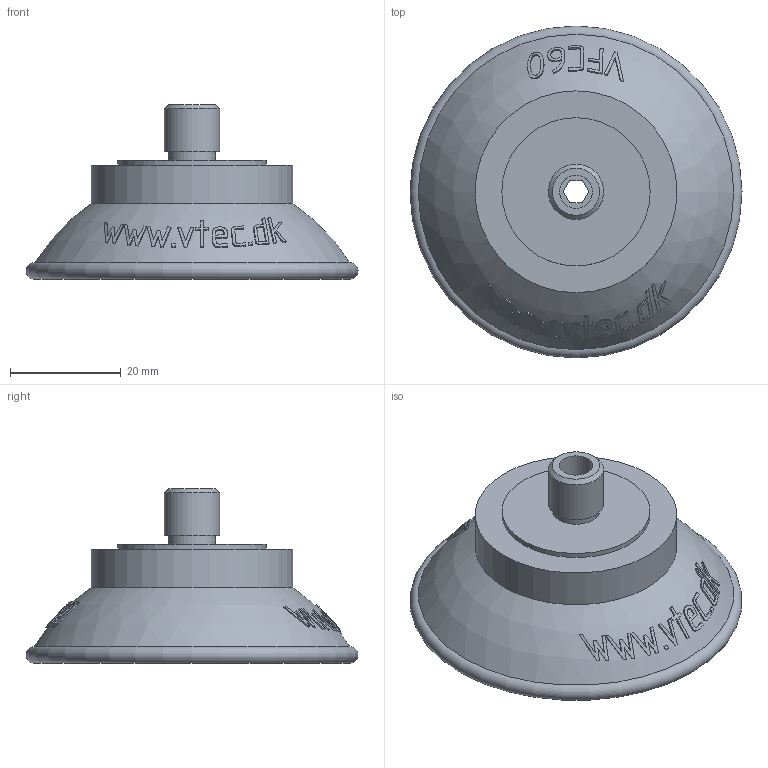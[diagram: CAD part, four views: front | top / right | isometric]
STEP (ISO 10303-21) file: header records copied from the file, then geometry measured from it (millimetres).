
FILE_DESCRIPTION( ( 'STEP AP203' ), '1' );
FILE_NAME( 'C:/Documents and Settings/Owner/官帕 拳搁/3D/Vacuum Pad/VFC series/VFC60X1-M10M.stp', '2006-04-25T05:10:25', ( ' ' ), ( ' ' ), 'XStep 1.0', ' ', ' ' );
FILE_SCHEMA( ( 'CONFIG_CONTROL_DESIGN) ( )' ) );
Length unit declared in the file: metre
Products named in the file (1): 1
Bounding box: 59.99 x 59.99 x 31.5 mm (x, y, z)
Volume: 18928 mm3; surface area: 9708.7 mm2
Topology: 1 solids, 1 shells, 240 faces, 587 edges, 390 vertices
Faces by surface type: bspline 145, plane 48, cylinder 23, sphere 22, torus 1, cone 1
Full cylindrical faces by diameter (mm): 6 x1, 8.5 x1, 10 x1, 26.8 x1, 36.5 x1
Entity records: 13667 total; most frequent: CARTESIAN_POINT 9053, ORIENTED_EDGE 1146, EDGE_CURVE 573, DIRECTION 499, VERTEX_POINT 388, B_SPLINE_CURVE_WITH_KNOTS 334, EDGE_LOOP 295, FACE_OUTER_BOUND 250
